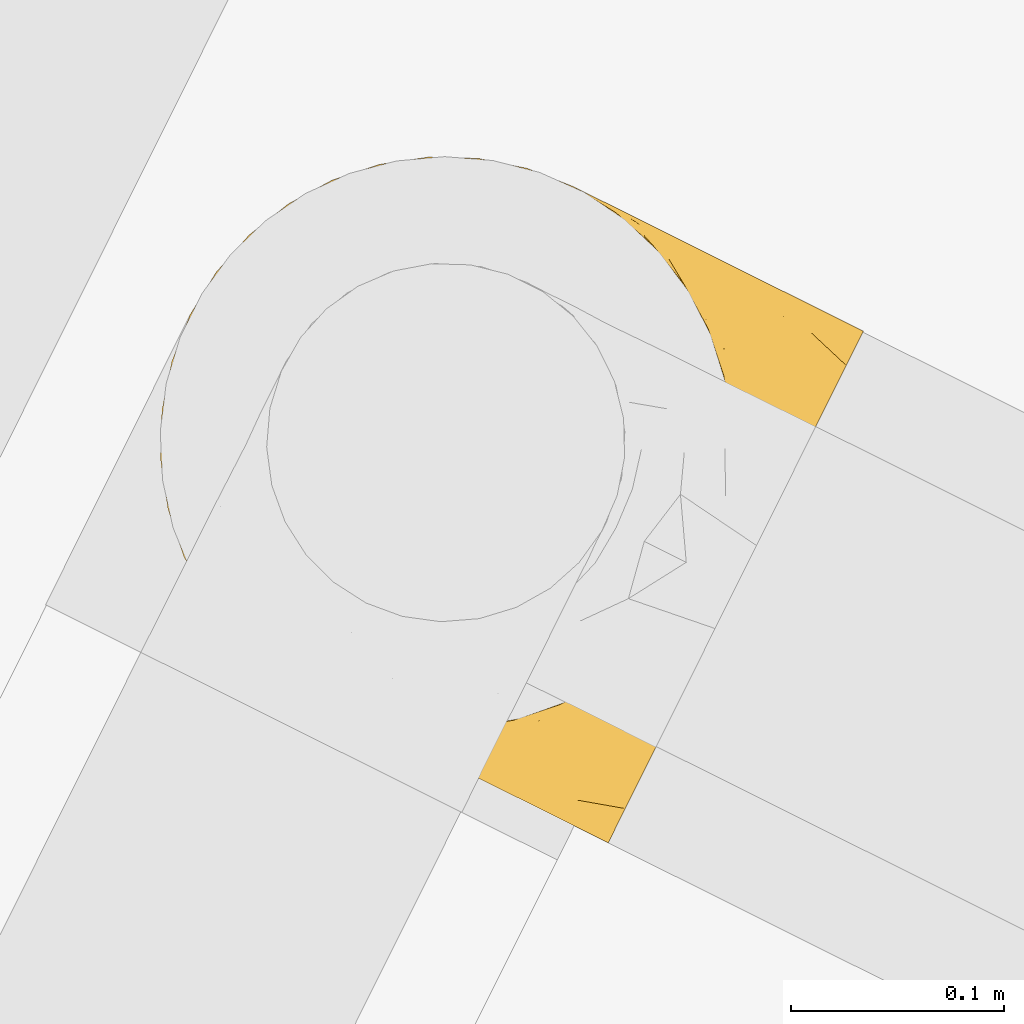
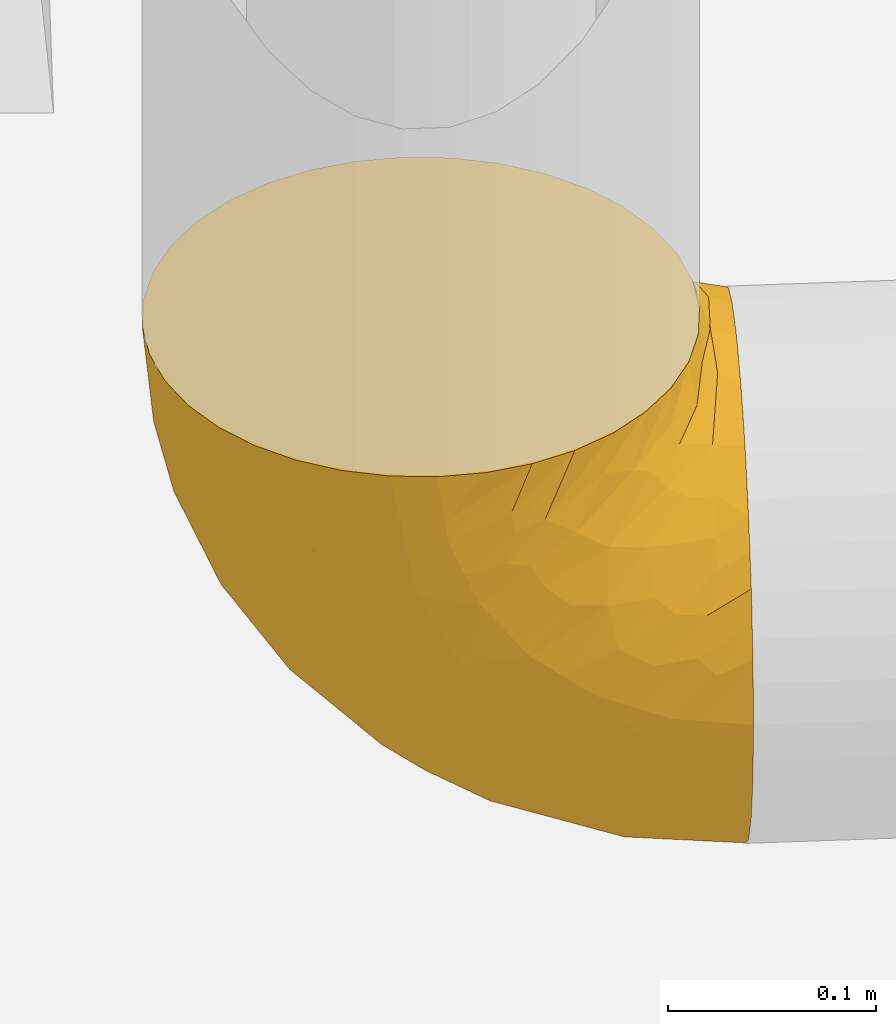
# One storey, part 55 of 91: 1 covering.
"""IFC2X3 building model written with IfcOpenShell, lengths in metres."""

from ifc_helpers import new_model, entity, si_unit, converted_unit, derived_unit, direction, frame, origin, place, context, subcontext, project, spatial, faceted_brep, element, save


model = new_model("IFC2X3")

# Units and contexts
model_context = context("Model", 3, precision=1e-05, world=origin(), true_north=direction((0.894925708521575, 0.446215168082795)))
context_of_model = context(None, 3, precision=1e-05, world=origin(), true_north=direction((0.894925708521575, 0.446215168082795)))
body_context = subcontext(model_context, "Body", "Model", "MODEL_VIEW")
ifc_project = project(units=[si_unit("LENGTHUNIT", "METRE"), si_unit("AREAUNIT", "SQUARE_METRE"), si_unit("VOLUMEUNIT", "CUBIC_METRE"), converted_unit("PLANEANGLEUNIT", "DEGREE", entity("IfcRatioMeasure", 0.0174532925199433), si_unit("PLANEANGLEUNIT", "RADIAN"), dimensions=[0, 0, 0, 0, 0, 0, 0]), si_unit("MASSUNIT", "GRAM", prefix="KILO"), si_unit("TIMEUNIT", "SECOND"), si_unit("FREQUENCYUNIT", "HERTZ"), si_unit("THERMODYNAMICTEMPERATUREUNIT", "DEGREE_CELSIUS"), derived_unit("THERMALTRANSMITTANCEUNIT", [(si_unit("MASSUNIT", "GRAM", prefix="KILO"), 1), (si_unit("THERMODYNAMICTEMPERATUREUNIT", "KELVIN"), -1), (si_unit("TIMEUNIT", "SECOND"), -3)]), derived_unit("VOLUMETRICFLOWRATEUNIT", [(si_unit("LENGTHUNIT", "METRE"), 3), (si_unit("TIMEUNIT", "SECOND"), -1)]), si_unit("ELECTRICCURRENTUNIT", "AMPERE"), si_unit("ELECTRICVOLTAGEUNIT", "VOLT"), si_unit("POWERUNIT", "WATT"), si_unit("FORCEUNIT", "NEWTON", prefix="KILO"), si_unit("ILLUMINANCEUNIT", "LUX"), si_unit("LUMINOUSFLUXUNIT", "LUMEN"), si_unit("LUMINOUSINTENSITYUNIT", "CANDELA"), si_unit("PRESSUREUNIT", "PASCAL")], contexts=[model_context, context_of_model])

# Site, building, storey
site_placement = place(None, frame((218.228324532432, 584.720189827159, 0.0), z_axis=(0.0, 0.0, 1.0), x_axis=(0.446215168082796, 0.894925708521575, 0.0)))
site = spatial("IfcSite", under=ifc_project, at=site_placement, Name="Default", CompositionType="ELEMENT")
building_placement = place(site_placement, origin())
building = spatial("IfcBuilding", under=site, at=building_placement, CompositionType="ELEMENT")
storey_placement = place(building_placement, origin())
storey = spatial("IfcBuildingStorey", under=building, at=storey_placement, Name="0 - Piano Terra", CompositionType="ELEMENT", Elevation=0.0)

# Covering
covering_placement = place(storey_placement, frame((0.521556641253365, -4.5388117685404, 3.16425472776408)))
element("IfcCovering", 1, at=covering_placement, inside=storey, Name="Isolamento tubazione:Default", ObjectType="Isolamento tubazione:Default", PredefinedType="INSULATION", context=body_context, shape_type="Brep", body=[
    faceted_brep([(0.261805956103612, 0.199474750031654, 0.287745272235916), (0.251922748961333, 0.220669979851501, 0.287745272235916), (0.238508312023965, 0.23982740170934, 0.287745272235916), (0.221970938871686, 0.256363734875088, 0.287745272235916), (0.202814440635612, 0.269775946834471, 0.287745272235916), (0.181622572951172, 0.279656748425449, 0.287745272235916), (0.159039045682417, 0.28570743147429, 0.287745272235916), (0.135745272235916, 0.287745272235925, 0.287745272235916), (0.112453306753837, 0.285707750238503, 0.287745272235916), (0.0898657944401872, 0.279655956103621, 0.287745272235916), (0.0686705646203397, 0.269772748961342, 0.287745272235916), (0.0495131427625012, 0.256358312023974, 0.287745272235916), (0.032976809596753, 0.239820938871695, 0.287745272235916), (0.0195645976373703, 0.220664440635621, 0.287745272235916), (0.00968379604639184, 0.199472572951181, 0.287745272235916), (0.00363311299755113, 0.176889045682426, 0.287745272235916), (0.00159527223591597, 0.153595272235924, 0.287745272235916), (0.00288094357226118, 0.138898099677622, 0.287745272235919), (0.0036327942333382, 0.130303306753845, 0.287745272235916), (0.00968458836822, 0.107715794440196, 0.287745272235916), (0.0195677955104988, 0.0865205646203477, 0.287745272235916), (0.032982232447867, 0.0673631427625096, 0.287745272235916), (0.0495196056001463, 0.0508268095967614, 0.287745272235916), (0.0686761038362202, 0.0374145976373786, 0.287745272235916), (0.0898679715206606, 0.0275337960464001, 0.287745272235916), (0.112451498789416, 0.0214831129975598, 0.287745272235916), (0.135745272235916, 0.0194452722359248, 0.287745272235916), (0.159037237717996, 0.0214827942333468, 0.287745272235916), (0.181624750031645, 0.0275345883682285, 0.287745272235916), (0.202819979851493, 0.0374177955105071, 0.287745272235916), (0.221977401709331, 0.0508322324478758, 0.287745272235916), (0.238513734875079, 0.0673696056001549, 0.287745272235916), (0.251925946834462, 0.086526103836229, 0.287745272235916), (0.26180674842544, 0.107717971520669, 0.287745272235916), (0.267857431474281, 0.130301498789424, 0.287745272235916), (0.268609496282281, 0.138898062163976, 0.287745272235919), (0.269895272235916, 0.153595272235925, 0.287745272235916), (0.267857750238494, 0.176887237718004, 0.287745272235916), (0.135745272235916, 0.0015952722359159, 0.269895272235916), (0.101024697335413, 0.0015952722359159, 0.265324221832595), (0.0686702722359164, 0.0015952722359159, 0.251922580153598), (0.040886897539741, 0.0015952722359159, 0.230603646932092), (0.0302274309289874, 0.0015952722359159, 0.216711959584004), (0.0195679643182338, 0.0015952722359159, 0.202820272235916), (0.0128671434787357, 0.0015952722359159, 0.186643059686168), (0.0061663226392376, 0.0015952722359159, 0.17046584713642), (0.00355977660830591, 0.00159527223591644, 0.150667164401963), (0.00159527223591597, 0.00159527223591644, 0.135745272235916), (0.00616632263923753, 0.00159527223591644, 0.101024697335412), (0.0195679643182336, 0.00159527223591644, 0.0686702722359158), (0.0408868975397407, 0.00159527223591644, 0.0408868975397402), (0.068670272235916, 0.00159527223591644, 0.0195679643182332), (0.101024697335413, 0.00159527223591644, 0.00616632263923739), (0.135745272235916, 0.00159527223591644, 0.0015952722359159), (0.170465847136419, 0.00159527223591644, 0.00616632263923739), (0.202820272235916, 0.00159527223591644, 0.0195679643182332), (0.230603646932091, 0.00159527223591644, 0.0408868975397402), (0.251922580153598, 0.00159527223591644, 0.0686702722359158), (0.265324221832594, 0.00159527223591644, 0.101024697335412), (0.269895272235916, 0.00159527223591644, 0.135745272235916), (0.267930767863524, 0.0015952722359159, 0.150667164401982), (0.265324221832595, 0.0015952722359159, 0.170465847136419), (0.258623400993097, 0.0015952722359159, 0.186643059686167), (0.251922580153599, 0.0015952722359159, 0.202820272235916), (0.241263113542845, 0.0015952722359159, 0.216711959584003), (0.230603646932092, 0.0015952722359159, 0.230603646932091), (0.202820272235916, 0.0015952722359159, 0.251922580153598), (0.170465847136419, 0.0015952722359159, 0.265324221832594), (0.173592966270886, 0.0793389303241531, 0.018025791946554), (0.135745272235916, 0.0574203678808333, 0.0070935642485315), (0.135745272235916, 0.11110013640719, 0.0233771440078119), (0.135745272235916, 0.282246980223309, 0.231920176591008), (0.159717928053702, 0.273936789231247, 0.207241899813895), (0.135745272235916, 0.265963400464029, 0.178240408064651), (0.170985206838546, 0.251669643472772, 0.158630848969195), (0.200241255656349, 0.241156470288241, 0.164011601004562), (0.173639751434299, 0.219063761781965, 0.110284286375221), (0.167491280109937, 0.138231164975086, 0.0406698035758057), (0.199265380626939, 0.124159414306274, 0.0469889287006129), (0.255399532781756, 0.0570178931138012, 0.0824390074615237), (0.21293824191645, 0.188464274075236, 0.104510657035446), (0.223457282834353, 0.21482195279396, 0.150639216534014), (0.243942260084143, 0.191593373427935, 0.1558220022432), (0.234087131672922, 0.0819819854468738, 0.0581703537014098), (0.135745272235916, 0.16057169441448, 0.0498202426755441), (0.260833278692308, 0.178269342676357, 0.19301425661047), (0.2577433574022, 0.152774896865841, 0.145189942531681), (0.135745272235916, 0.203933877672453, 0.0854066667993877), (0.135745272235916, 0.239520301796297, 0.128768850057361), (0.262693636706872, 0.0926265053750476, 0.114887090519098), (0.26735249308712, 0.0427674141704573, 0.114577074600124), (0.21171503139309, 0.0603098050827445, 0.0318283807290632), (0.23685787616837, 0.225253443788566, 0.200254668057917), (0.251339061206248, 0.106232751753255, 0.0941366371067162), (0.269895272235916, 0.0409357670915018, 0.140924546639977), (0.269895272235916, 0.028326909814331, 0.139264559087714), (0.269895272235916, 0.0157180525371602, 0.137604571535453), (0.269895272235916, 0.0775952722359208, 0.156109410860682), (0.269895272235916, 0.059265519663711, 0.14851697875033), (0.252999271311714, 0.212298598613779, 0.235124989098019), (0.186228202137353, 0.175571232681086, 0.073111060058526), (0.159251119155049, 0.181506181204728, 0.0679034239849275), (0.266914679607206, 0.142030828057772, 0.17495543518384), (0.225420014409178, 0.247977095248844, 0.235921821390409), (0.269895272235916, 0.109075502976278, 0.180265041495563), (0.269895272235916, 0.0933353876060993, 0.168187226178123), (0.186827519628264, 0.269211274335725, 0.220056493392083), (0.208621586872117, 0.156043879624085, 0.0728637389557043), (0.235964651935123, 0.123868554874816, 0.0798632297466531), (0.244360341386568, 0.150188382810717, 0.111228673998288), (0.267685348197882, 0.162845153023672, 0.216594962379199), (0.269895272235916, 0.151735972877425, 0.273622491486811), (0.269895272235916, 0.150075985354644, 0.261013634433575), (0.269895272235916, 0.148415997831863, 0.248404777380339), (0.269895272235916, 0.133231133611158, 0.21174527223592), (0.269895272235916, 0.121153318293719, 0.196005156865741), (0.269895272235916, 0.115114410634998, 0.188135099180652), (0.21892116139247, 0.239896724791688, 0.190837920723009), (0.219832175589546, 0.117252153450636, 0.0587716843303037), (0.269895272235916, 0.140823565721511, 0.230075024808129), (0.257440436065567, 0.0862333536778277, 0.243401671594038), (0.26633905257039, 0.108928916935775, 0.231201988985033), (0.261505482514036, 0.10151694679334, 0.254512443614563), (0.265515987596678, 0.0282177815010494, 0.172784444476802), (0.267416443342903, 0.0488021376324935, 0.170566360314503), (0.258379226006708, 0.0233658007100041, 0.192583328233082), (0.234200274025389, 0.0570559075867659, 0.262635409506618), (0.2096322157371, 0.0379394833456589, 0.270963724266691), (0.247613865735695, 0.0175473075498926, 0.211432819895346), (0.238549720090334, 0.0186508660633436, 0.224176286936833), (0.262888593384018, 0.0712470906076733, 0.203626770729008), (0.162973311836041, 0.0188530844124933, 0.27641960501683), (0.224278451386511, 0.0160462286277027, 0.238613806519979), (0.228157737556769, 0.0301454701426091, 0.241020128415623), (0.203773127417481, 0.0172767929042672, 0.254920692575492), (0.265964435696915, 0.0898107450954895, 0.206743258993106), (0.172729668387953, 0.0128211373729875, 0.267614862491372), (0.190556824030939, 0.024017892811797, 0.268485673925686), (0.229549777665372, 0.0412634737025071, 0.248077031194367), (0.248264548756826, 0.0518606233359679, 0.226858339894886), (0.135745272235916, 0.0142171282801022, 0.275123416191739), (0.228925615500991, 0.0478490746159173, 0.257085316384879), (0.254010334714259, 0.0703790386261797, 0.231774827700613), (0.267242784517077, 0.066325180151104, 0.180278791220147), (0.259428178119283, 0.038221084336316, 0.194639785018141), (0.265732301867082, 0.117739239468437, 0.262576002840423), (0.266097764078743, 0.11613299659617, 0.250936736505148), (0.268138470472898, 0.120325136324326, 0.233920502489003), (0.244552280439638, 0.0725214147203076, 0.268344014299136), (0.211919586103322, 0.0337025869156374, 0.261333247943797), (0.266477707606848, 0.10241564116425, 0.219203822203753), (0.257840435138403, 0.0479963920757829, 0.203223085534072), (0.267289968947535, 0.0194576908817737, 0.163330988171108), (0.242459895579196, 0.0332297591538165, 0.224507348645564), (0.0329408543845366, 0.0186511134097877, 0.224176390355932), (0.0472120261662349, 0.0160469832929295, 0.238613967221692), (0.0290300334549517, 0.0332307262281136, 0.22450692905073), (0.0372947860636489, 0.0570503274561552, 0.262634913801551), (0.106124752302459, 0.0124987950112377, 0.269609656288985), (0.0269410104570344, 0.0725165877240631, 0.268340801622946), (0.00335319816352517, 0.120317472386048, 0.233920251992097), (0.00159527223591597, 0.133231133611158, 0.211745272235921), (0.0051513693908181, 0.108926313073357, 0.231195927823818), (0.0677158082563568, 0.0172784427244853, 0.254920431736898), (0.0174874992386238, 0.0703674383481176, 0.231782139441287), (0.0140509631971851, 0.0862283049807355, 0.24339600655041), (0.10553101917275, 0.0199234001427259, 0.276899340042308), (0.0809360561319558, 0.0240181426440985, 0.268487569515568), (0.00159527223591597, 0.0283269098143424, 0.139264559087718), (0.0015952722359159, 0.0157180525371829, 0.137604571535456), (0.0086021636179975, 0.0712466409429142, 0.203627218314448), (0.0232262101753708, 0.0518636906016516, 0.226861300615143), (0.00407410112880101, 0.048802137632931, 0.170566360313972), (0.00159527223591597, 0.0775952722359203, 0.156109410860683), (0.00159527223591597, 0.059265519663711, 0.148516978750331), (0.00159527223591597, 0.148415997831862, 0.248404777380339), (0.00159527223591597, 0.14082356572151, 0.23007502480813), (0.00575946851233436, 0.117734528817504, 0.26257695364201), (0.0131113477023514, 0.0233657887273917, 0.192583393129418), (0.0238766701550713, 0.0175473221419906, 0.211432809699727), (0.00597455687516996, 0.0282177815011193, 0.172784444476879), (0.0425746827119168, 0.047841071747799, 0.257090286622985), (0.0618652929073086, 0.0379359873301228, 0.270967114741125), (0.0595746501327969, 0.0337015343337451, 0.261335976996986), (0.0015952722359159, 0.151735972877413, 0.273622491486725), (0.0015952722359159, 0.150075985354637, 0.261013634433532), (0.0099867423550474, 0.101511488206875, 0.254510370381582), (0.0419468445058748, 0.0412589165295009, 0.248080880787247), (0.00501312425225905, 0.102411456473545, 0.219199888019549), (0.00552776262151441, 0.089806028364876, 0.206747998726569), (0.00159527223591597, 0.109075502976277, 0.180265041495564), (0.00539385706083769, 0.116128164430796, 0.250936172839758), (0.00424774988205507, 0.0663252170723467, 0.180278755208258), (0.00159527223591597, 0.121153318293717, 0.196005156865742), (0.0136499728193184, 0.0479965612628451, 0.203222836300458), (0.0120623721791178, 0.0382211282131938, 0.19463981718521), (0.00159527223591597, 0.115114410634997, 0.188135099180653), (0.00159527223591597, 0.0933353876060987, 0.168187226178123), (0.0433316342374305, 0.0301467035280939, 0.241019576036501), (0.00420057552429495, 0.0194576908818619, 0.163330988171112), (0.00159527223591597, 0.0409357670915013, 0.140924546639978), (0.0597755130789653, 0.0603098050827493, 0.0318283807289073), (0.018489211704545, 0.212294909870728, 0.235125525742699), (0.0106570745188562, 0.178268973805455, 0.193014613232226), (0.0275474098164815, 0.191589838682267, 0.155819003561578), (0.0346285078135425, 0.225247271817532, 0.200251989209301), (0.00879690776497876, 0.0926265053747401, 0.114887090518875), (0.00413805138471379, 0.0427674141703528, 0.114577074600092), (0.00457581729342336, 0.142030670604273, 0.174955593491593), (0.0585543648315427, 0.188454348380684, 0.104498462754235), (0.0712444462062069, 0.241149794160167, 0.164004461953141), (0.0978508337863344, 0.219063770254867, 0.110284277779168), (0.0525652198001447, 0.239892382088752, 0.190835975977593), (0.0846596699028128, 0.269208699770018, 0.220051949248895), (0.0160910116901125, 0.0570178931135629, 0.0824390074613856), (0.035525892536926, 0.123868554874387, 0.0798632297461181), (0.0516583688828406, 0.117252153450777, 0.0587716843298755), (0.0374034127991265, 0.0819819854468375, 0.0581703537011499), (0.0978975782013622, 0.0793389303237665, 0.0180257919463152), (0.0201514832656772, 0.106232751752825, 0.0941366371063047), (0.103999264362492, 0.138231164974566, 0.0406698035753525), (0.0722251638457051, 0.124159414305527, 0.0469889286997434), (0.0480360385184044, 0.214821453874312, 0.150634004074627), (0.00380513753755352, 0.162844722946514, 0.21659477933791), (0.0852623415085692, 0.175571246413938, 0.0731110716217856), (0.0271302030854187, 0.150188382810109, 0.111228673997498), (0.0137471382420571, 0.152774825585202, 0.145190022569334), (0.0460646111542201, 0.247971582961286, 0.235921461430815), (0.112239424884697, 0.181506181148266, 0.0679034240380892), (0.111770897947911, 0.27393654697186, 0.207242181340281), (0.10794286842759, 0.251423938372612, 0.154294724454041), (0.0628686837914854, 0.156036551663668, 0.072858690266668)], [[[0, 1, 2, 3, 4, 5, 6, 7, 8, 9, 10, 11, 12, 13, 14, 15, 16, 17, 18, 19, 20, 21, 22, 23, 24, 25, 26, 27, 28, 29, 30, 31, 32, 33, 34, 35, 36, 37]], [[38, 39, 40, 41, 42, 43, 44, 45, 46, 47, 48, 49, 50, 51, 52, 53, 54, 55, 56, 57, 58, 59, 60, 61, 62, 63, 64, 65, 66, 67]], [[68, 69, 70]], [[69, 54, 53]], [[71, 72, 73]], [[74, 75, 76]], [[68, 77, 78]], [[79, 58, 57]], [[68, 55, 54]], [[80, 81, 82]], [[83, 57, 56]], [[84, 77, 70]], [[85, 86, 82]], [[76, 87, 88]], [[89, 90, 79]], [[91, 83, 56]], [[92, 82, 81]], [[89, 93, 86]], [[90, 94, 95, 96, 59]], [[90, 97, 98, 94]], [[99, 1, 0]], [[59, 58, 90]], [[100, 101, 76]], [[102, 86, 85]], [[89, 102, 97]], [[100, 78, 77]], [[103, 99, 92]], [[102, 104, 105, 97]], [[55, 91, 56]], [[74, 73, 72]], [[72, 6, 5]], [[4, 106, 5]], [[80, 107, 100]], [[106, 72, 5]], [[82, 99, 85]], [[3, 103, 4]], [[108, 109, 93]], [[71, 7, 6]], [[76, 75, 80]], [[103, 3, 2]], [[54, 69, 68]], [[110, 36, 111, 112, 113]], [[2, 1, 103]], [[110, 114, 102]], [[102, 114, 115, 116, 104]], [[36, 110, 37]], [[4, 103, 106]], [[99, 37, 85]], [[79, 93, 89]], [[102, 85, 110]], [[117, 103, 92]], [[117, 106, 103]], [[1, 99, 103]], [[107, 108, 118]], [[37, 99, 0]], [[73, 74, 88]], [[89, 86, 102]], [[68, 78, 91]], [[82, 86, 109]], [[80, 82, 109]], [[82, 92, 99]], [[68, 91, 55]], [[118, 91, 78]], [[6, 72, 71]], [[74, 106, 75]], [[80, 75, 81]], [[117, 81, 75]], [[57, 83, 79]], [[83, 108, 93]], [[37, 110, 85]], [[110, 113, 119, 114]], [[81, 117, 92]], [[106, 117, 75]], [[70, 77, 68]], [[84, 87, 101]], [[77, 84, 101]], [[80, 100, 76]], [[76, 101, 87]], [[77, 101, 100]], [[83, 93, 79]], [[86, 93, 109]], [[118, 108, 83]], [[80, 109, 108]], [[91, 118, 83]], [[107, 118, 78]], [[100, 107, 78]], [[108, 107, 80]], [[79, 90, 58]], [[90, 89, 97]], [[88, 74, 76]], [[106, 74, 72]], [[120, 121, 122]], [[60, 59, 96, 95, 61]], [[123, 124, 125]], [[126, 29, 127]], [[127, 29, 28]], [[123, 98, 124]], [[128, 129, 65]], [[104, 130, 105]], [[131, 27, 26]], [[62, 123, 63]], [[132, 133, 134]], [[104, 116, 135]], [[38, 67, 136]], [[137, 136, 134]], [[138, 133, 139]], [[140, 38, 136]], [[131, 136, 137]], [[126, 141, 142]], [[127, 28, 137]], [[124, 143, 144]], [[145, 33, 32]], [[65, 129, 132]], [[146, 122, 147]], [[148, 122, 31]], [[149, 127, 137]], [[33, 113, 112]], [[35, 34, 112, 111, 36]], [[134, 67, 66]], [[120, 126, 142]], [[33, 145, 113]], [[140, 131, 26]], [[141, 126, 127]], [[126, 120, 148]], [[30, 148, 31]], [[33, 112, 34]], [[28, 27, 131]], [[126, 30, 29]], [[121, 147, 122]], [[31, 122, 32]], [[128, 125, 144]], [[115, 121, 150]], [[121, 115, 114]], [[97, 105, 143]], [[130, 104, 135]], [[139, 142, 138]], [[143, 151, 144]], [[123, 94, 98]], [[62, 61, 152]], [[123, 62, 152]], [[98, 97, 124]], [[143, 124, 97]], [[125, 124, 144]], [[126, 148, 30]], [[122, 148, 120]], [[66, 65, 132]], [[149, 134, 138]], [[125, 128, 64]], [[123, 125, 63]], [[64, 128, 65]], [[64, 63, 125]], [[144, 151, 129]], [[144, 129, 128]], [[129, 153, 132]], [[133, 132, 153]], [[134, 66, 132]], [[153, 151, 139]], [[138, 134, 133]], [[153, 139, 133]], [[142, 139, 130]], [[146, 32, 122]], [[113, 145, 119]], [[94, 152, 95]], [[28, 131, 137]], [[136, 131, 140]], [[134, 136, 67]], [[134, 149, 137]], [[141, 149, 138]], [[149, 141, 127]], [[142, 141, 138]], [[121, 120, 150]], [[147, 121, 114]], [[120, 142, 150]], [[150, 116, 115]], [[135, 150, 142]], [[150, 135, 116]], [[130, 135, 142]], [[114, 119, 147]], [[146, 119, 145]], [[119, 146, 147]], [[32, 146, 145]], [[105, 130, 143]], [[130, 139, 151]], [[130, 151, 143]], [[129, 151, 153]], [[95, 152, 61]], [[123, 152, 94]], [[154, 155, 156]], [[22, 157, 23]], [[38, 140, 158]], [[22, 159, 157]], [[160, 161, 162]], [[39, 158, 163]], [[164, 157, 165]], [[166, 24, 167]], [[168, 169, 47, 46, 45]], [[164, 170, 171]], [[172, 173, 174]], [[175, 176, 177]], [[178, 42, 179]], [[41, 155, 154]], [[39, 163, 40]], [[43, 180, 44]], [[181, 182, 157]], [[182, 183, 167]], [[166, 167, 158]], [[19, 177, 20]], [[17, 16, 184, 185, 18]], [[182, 167, 24]], [[23, 182, 24]], [[186, 21, 20]], [[181, 164, 187]], [[188, 165, 162]], [[22, 21, 159]], [[170, 189, 190]], [[159, 186, 165]], [[191, 20, 177]], [[173, 172, 192]], [[167, 163, 158]], [[23, 157, 182]], [[185, 175, 19]], [[18, 185, 19]], [[162, 165, 186]], [[193, 188, 162]], [[166, 26, 25]], [[194, 170, 192]], [[154, 195, 179]], [[190, 189, 196]], [[172, 174, 180]], [[170, 190, 197]], [[192, 197, 173]], [[156, 198, 171]], [[199, 45, 44]], [[172, 178, 195]], [[180, 200, 199]], [[200, 180, 174]], [[178, 180, 43]], [[192, 172, 195]], [[186, 159, 21]], [[157, 159, 165]], [[183, 163, 167]], [[155, 198, 156]], [[180, 178, 172]], [[42, 41, 179]], [[178, 43, 42]], [[154, 179, 41]], [[178, 179, 195]], [[155, 41, 40]], [[154, 156, 194]], [[40, 163, 155]], [[198, 155, 163]], [[163, 187, 198]], [[171, 198, 187]], [[164, 171, 187]], [[171, 170, 194]], [[175, 177, 19]], [[176, 160, 191]], [[199, 168, 45]], [[38, 158, 39]], [[140, 26, 166]], [[140, 166, 158]], [[24, 166, 25]], [[164, 181, 157]], [[183, 181, 187]], [[181, 183, 182]], [[163, 183, 187]], [[160, 162, 186]], [[193, 162, 161]], [[188, 193, 196]], [[164, 165, 188]], [[189, 170, 164]], [[196, 189, 188]], [[188, 189, 164]], [[191, 160, 186]], [[176, 161, 160]], [[20, 191, 186]], [[176, 191, 177]], [[194, 192, 195]], [[170, 197, 192]], [[154, 194, 195]], [[194, 156, 171]], [[180, 199, 44]], [[168, 199, 200]], [[201, 51, 50]], [[15, 202, 203]], [[204, 202, 205]], [[173, 206, 207]], [[207, 200, 174, 173]], [[47, 207, 48]], [[208, 190, 196, 193, 161]], [[209, 210, 211]], [[13, 202, 14]], [[208, 173, 197, 190]], [[212, 213, 210]], [[48, 207, 214]], [[69, 53, 52]], [[203, 202, 204]], [[215, 216, 217]], [[201, 218, 51]], [[202, 15, 14]], [[70, 69, 218]], [[217, 214, 219]], [[220, 218, 221]], [[201, 50, 217]], [[49, 217, 50]], [[220, 70, 218]], [[222, 209, 204]], [[223, 161, 176, 175]], [[224, 209, 211]], [[204, 225, 226]], [[206, 208, 226]], [[16, 15, 223]], [[15, 203, 223]], [[13, 12, 227]], [[214, 49, 48]], [[202, 227, 205]], [[69, 52, 218]], [[51, 218, 52]], [[202, 13, 227]], [[217, 219, 215]], [[228, 87, 84]], [[73, 229, 71]], [[88, 211, 230]], [[211, 88, 87]], [[11, 227, 12]], [[9, 213, 10]], [[10, 213, 227]], [[229, 8, 71]], [[173, 208, 206]], [[7, 71, 8]], [[213, 229, 230]], [[226, 208, 203]], [[212, 205, 227]], [[228, 220, 224]], [[213, 230, 210]], [[225, 204, 209]], [[208, 223, 203]], [[10, 227, 11]], [[9, 8, 229]], [[226, 225, 219]], [[203, 204, 226]], [[204, 205, 222]], [[216, 201, 217]], [[218, 201, 221]], [[88, 230, 73]], [[229, 213, 9]], [[212, 222, 205]], [[210, 209, 222]], [[219, 214, 206]], [[217, 49, 214]], [[161, 223, 208]], [[223, 175, 185, 184, 16]], [[213, 212, 227]], [[222, 212, 210]], [[224, 220, 221]], [[70, 220, 84]], [[224, 221, 231]], [[228, 211, 87]], [[220, 228, 84]], [[211, 228, 224]], [[226, 219, 206]], [[219, 225, 215]], [[225, 209, 215]], [[216, 231, 221]], [[231, 215, 209]], [[201, 216, 221]], [[215, 231, 216]], [[224, 231, 209]], [[207, 47, 169, 168, 200]], [[214, 207, 206]], [[210, 230, 211]], [[73, 230, 229]]]),
])

save(model, "model.ifc")
